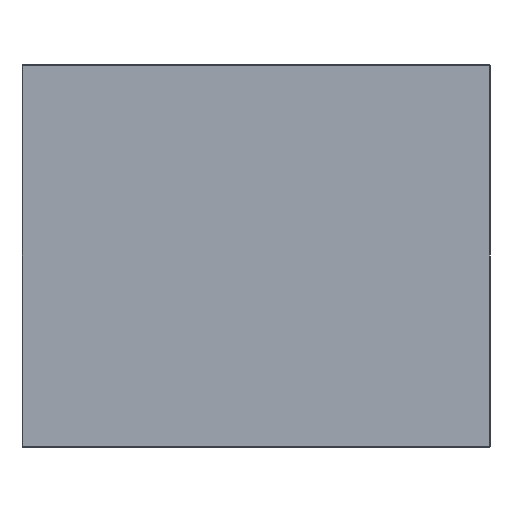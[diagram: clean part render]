
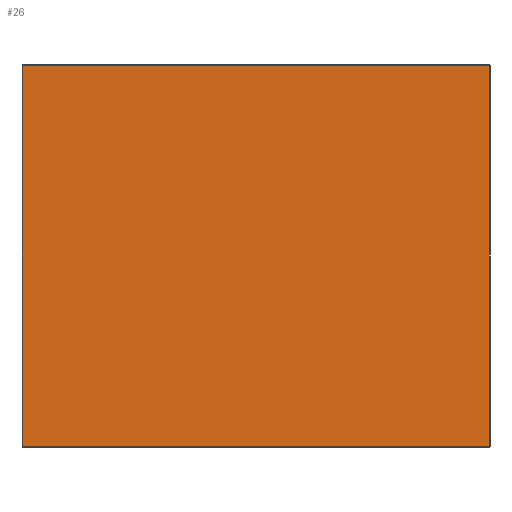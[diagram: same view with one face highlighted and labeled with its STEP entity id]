
A CAD part, front view. The second image highlights one B-rep face of the part: STEP entity #26.
In plain terms, the highlighted planar face has unit normal (0, -1, 0).
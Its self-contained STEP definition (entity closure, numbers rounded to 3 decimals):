
#9 = EDGE_LOOP ( 'NONE', ( #580, #247, #553, #446 ) ) ;
#26 = ADVANCED_FACE ( 'NONE', ( #123 ), #430, .F. ) ;
#39 = VERTEX_POINT ( 'NONE', #457 ) ;
#77 = DIRECTION ( 'NONE',  ( 0., 0., 1. ) ) ;
#78 = CARTESIAN_POINT ( 'NONE',  ( 272., 0., 222. ) ) ;
#119 = VECTOR ( 'NONE', #126, 1000. ) ;
#123 = FACE_OUTER_BOUND ( 'NONE', #9, .T. ) ;
#126 = DIRECTION ( 'NONE',  ( 0., 0., -1. ) ) ;
#160 = DIRECTION ( 'NONE',  ( -1., 0., 0. ) ) ;
#180 = DIRECTION ( 'NONE',  ( 0., 0., 1. ) ) ;
#195 = EDGE_CURVE ( 'NONE', #437, #39, #222, .T. ) ;
#222 = LINE ( 'NONE', #468, #119 ) ;
#247 = ORIENTED_EDGE ( 'NONE', *, *, #492, .T. ) ;
#275 = LINE ( 'NONE', #345, #601 ) ;
#277 = CARTESIAN_POINT ( 'NONE',  ( 0., 0., -222. ) ) ;
#281 = EDGE_CURVE ( 'NONE', #424, #620, #275, .T. ) ;
#322 = CARTESIAN_POINT ( 'NONE',  ( 0., 0., 222. ) ) ;
#337 = DIRECTION ( 'NONE',  ( 0., 1., 0. ) ) ;
#345 = CARTESIAN_POINT ( 'NONE',  ( 272., 0., 0. ) ) ;
#355 = EDGE_CURVE ( 'NONE', #39, #424, #643, .T. ) ;
#369 = VECTOR ( 'NONE', #160, 1000. ) ;
#387 = LINE ( 'NONE', #322, #369 ) ;
#406 = CARTESIAN_POINT ( 'NONE',  ( -272., 0., 222. ) ) ;
#424 = VERTEX_POINT ( 'NONE', #626 ) ;
#430 = PLANE ( 'NONE',  #543 ) ;
#437 = VERTEX_POINT ( 'NONE', #406 ) ;
#446 = ORIENTED_EDGE ( 'NONE', *, *, #355, .T. ) ;
#457 = CARTESIAN_POINT ( 'NONE',  ( -272., 0., -222. ) ) ;
#468 = CARTESIAN_POINT ( 'NONE',  ( -272., 0., 0. ) ) ;
#492 = EDGE_CURVE ( 'NONE', #620, #437, #387, .T. ) ;
#529 = DIRECTION ( 'NONE',  ( 1., 0., 0. ) ) ;
#532 = CARTESIAN_POINT ( 'NONE',  ( 0., 0., 0. ) ) ;
#543 = AXIS2_PLACEMENT_3D ( 'NONE', #532, #337, #77 ) ;
#553 = ORIENTED_EDGE ( 'NONE', *, *, #195, .T. ) ;
#580 = ORIENTED_EDGE ( 'NONE', *, *, #281, .T. ) ;
#587 = VECTOR ( 'NONE', #529, 1000. ) ;
#601 = VECTOR ( 'NONE', #180, 1000. ) ;
#620 = VERTEX_POINT ( 'NONE', #78 ) ;
#626 = CARTESIAN_POINT ( 'NONE',  ( 272., 0., -222. ) ) ;
#643 = LINE ( 'NONE', #277, #587 ) ;
